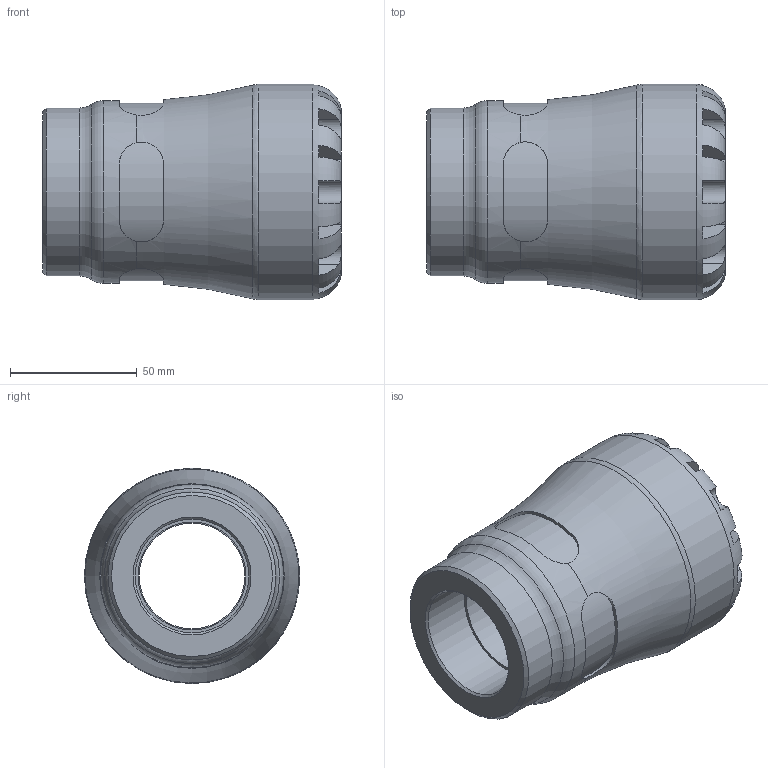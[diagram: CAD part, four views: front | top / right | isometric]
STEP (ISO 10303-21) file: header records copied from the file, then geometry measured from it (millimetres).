
FILE_DESCRIPTION(/* description */ ('PLASSON FEMALE INTEGRAL BRASS THREAD 50X1.1/2" SERIES 1'),/* implementation_level */ '2;1');
FILE_NAME(/* name */ 'C:\Dropbox\KIMPROJECTS-Inventor\99-16-3568-Processing\1073\107300050015_197300050015.ipt.stp',/* time_stamp */ '2017-01-22T11:35:46+02:00',/* author */ ('KIM'),/* organization */ (''),/* preprocessor_version */ 'ST-DEVELOPER v15.6',/* originating_system */ 'Autodesk Inventor 2015',/* authorisation */ '');
FILE_SCHEMA (('AUTOMOTIVE_DESIGN { 1 0 10303 214 3 1 1 }'));
Length unit declared in the file: millimetre
Products named in the file (1): 107300050015_197300050015
Bounding box: 118 x 85 x 85 mm (x, y, z)
Volume: 317249 mm3; surface area: 54097 mm2
Topology: 1 solids, 1 shells, 104 faces, 265 edges, 166 vertices
Faces by surface type: plane 61, cylinder 35, torus 5, cone 3
Full cylindrical faces by diameter (mm): 41.667 x1, 42.603 x1, 44.845 x1, 50 x1, 66.3 x1, 72.25 x1, 85 x1
Entity records: 3856 total; most frequent: CARTESIAN_POINT 1469, ORIENTED_EDGE 492, DIRECTION 478, EDGE_CURVE 246, AXIS2_PLACEMENT_3D 199, VERTEX_POINT 162, EDGE_LOOP 124, FACE_OUTER_BOUND 104
